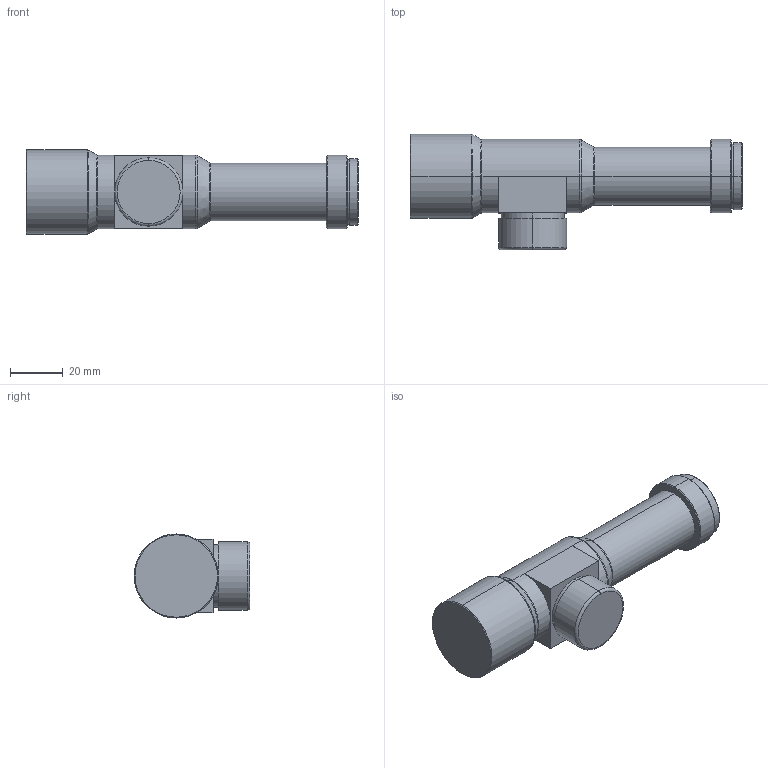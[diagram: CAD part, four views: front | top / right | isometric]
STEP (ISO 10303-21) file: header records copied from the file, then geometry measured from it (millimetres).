
FILE_DESCRIPTION (( 'STEP AP203' ), '1' );
FILE_NAME ('WWH15-108CTV3.STEP', '2021-05-14T08:43:15', ( 'Windows User' ), ( 'P R C' ), 'SwSTEP 2.0', 'SolidWorks 2017', '' );
FILE_SCHEMA (( 'CONFIG_CONTROL_DESIGN' ));
Length unit declared in the file: millimetre
Products named in the file (1): WWH15-108CTV3
Bounding box: 126.4 x 44 x 32 mm (x, y, z)
Volume: 80512.8 mm3; surface area: 14033.8 mm2
Topology: 1 solids, 1 shells, 53 faces, 106 edges, 60 vertices
Faces by surface type: cylinder 17, plane 14, cone 12, torus 10
Entity records: 1445 total; most frequent: DIRECTION 278, CARTESIAN_POINT 220, ORIENTED_EDGE 212, AXIS2_PLACEMENT_3D 118, EDGE_CURVE 106, CIRCLE 64, VERTEX_POINT 60, EDGE_LOOP 58
